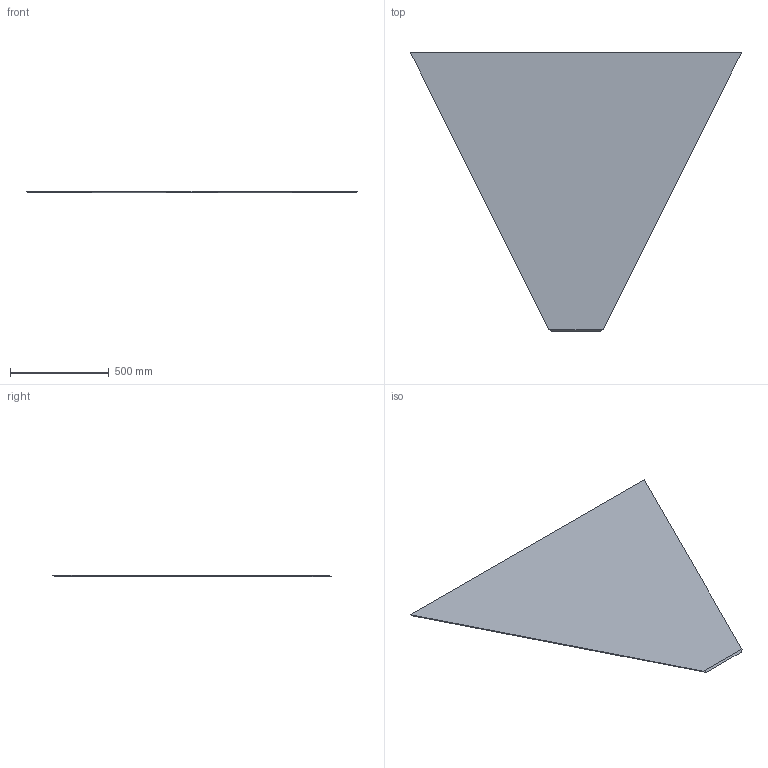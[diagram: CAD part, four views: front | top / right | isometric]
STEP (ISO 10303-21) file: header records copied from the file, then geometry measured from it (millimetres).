
FILE_DESCRIPTION(('Open CASCADE Model'),'2;1');
FILE_NAME('Open CASCADE Shape Model','2026-10-15T15:10:04',('Author'),( 'Open CASCADE'),'Open CASCADE STEP processor 8.0','Open CASCADE 8.0' ,'Unknown');
FILE_SCHEMA(('AUTOMOTIVE_DESIGN { 1 0 10303 214 1 1 1 1 }'));
Length unit declared in the file: millimetre
Products named in the file (1): LINER_CONO_UHMW10_P05 85
Bounding box: 1673.09 x 1405.77 x 10 mm (x, y, z)
Volume: 13461658.1 mm3; surface area: 2754135.6 mm2
Topology: 1 solids, 1 shells, 6 faces, 12 edges, 8 vertices
Faces by surface type: plane 6
Entity records: 310 total; most frequent: CARTESIAN_POINT 63, DIRECTION 38, ORIENTED_EDGE 24, LINE 24, VECTOR 24, PCURVE 24, DEFINITIONAL_REPRESENTATION 24, EDGE_CURVE 12
